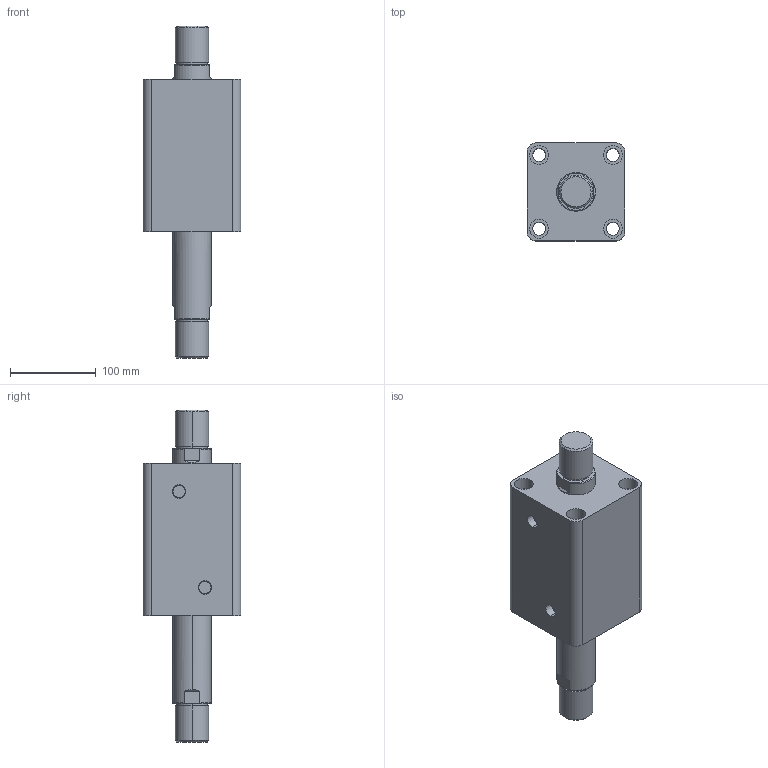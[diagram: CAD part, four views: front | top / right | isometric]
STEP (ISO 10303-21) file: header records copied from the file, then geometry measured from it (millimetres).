
FILE_DESCRIPTION (( 'STEP AP203' ), '1' );
FILE_NAME ('HTB-SW80-85W.STEP', '2019-10-07T10:26:47', ( '微软用户' ), ( '微软中国' ), 'SwSTEP 2.0', 'SolidWorks 2012', '' );
FILE_SCHEMA (( 'CONFIG_CONTROL_DESIGN' ));
Length unit declared in the file: millimetre
Products named in the file (3): HTB-SW80-85W; HTB-SW80-85W活塞杆; HTB-SW80-85掛极
Assembly tree (2 placements, depth 2):
  HTB-SW80-85W
    HTB-SW80-85掛极
    HTB-SW80-85W活塞杆
Bounding box: 114 x 114 x 387 mm (x, y, z)
Volume: 2145272.4 mm3; surface area: 248089.8 mm2
Topology: 2 solids, 2 shells, 108 faces, 240 edges, 156 vertices
Faces by surface type: cylinder 52, plane 36, torus 12, cone 8
Entity records: 3449 total; most frequent: CARTESIAN_POINT 629, DIRECTION 586, ORIENTED_EDGE 480, AXIS2_PLACEMENT_3D 249, EDGE_CURVE 240, VERTEX_POINT 156, EDGE_LOOP 138, CIRCLE 136
